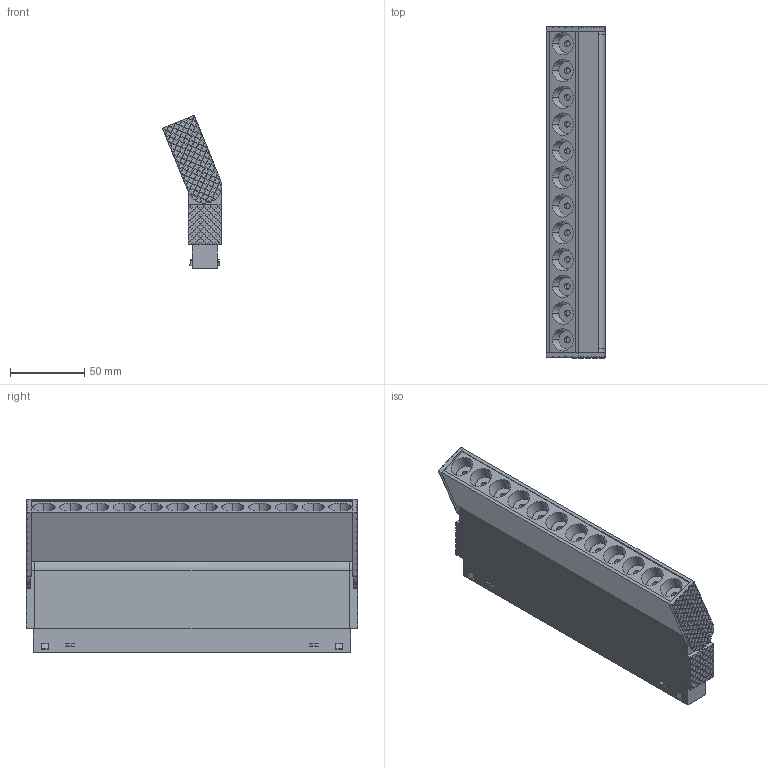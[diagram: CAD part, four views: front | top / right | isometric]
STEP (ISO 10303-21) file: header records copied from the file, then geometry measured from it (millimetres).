
FILE_DESCRIPTION(/* description */ (''),/* implementation_level */ '2;1');
FILE_NAME(/* name */ 'KLDE32~1',/* time_stamp */ '2026-07-04T10:24:00+08:00',/* author */ (''),/* organization */ (''),/* preprocessor_version */ 'ST-DEVELOPER v16.5',/* originating_system */ '',/* authorisation */ '');
FILE_SCHEMA (('CONFIG_CONTROL_DESIGN'));
Length unit declared in the file: millimetre
Products named in the file (1): Document
Bounding box: 39.66 x 223 x 102.87 mm (x, y, z)
Volume: 450867.7 mm3; surface area: 99679.9 mm2
Topology: 23 solids, 23 shells, 2118 faces, 5268 edges, 3504 vertices
Faces by surface type: plane 2009, cylinder 85, bspline 24
Entity records: 54692 total; most frequent: CARTESIAN_POINT 16962, ORIENTED_EDGE 10536, EDGE_CURVE 5268, B_SPLINE_CURVE_WITH_KNOTS 5034, VERTEX_POINT 3504, EDGE_LOOP 2426, ADVANCED_FACE 2118, FACE_OUTER_BOUND 2118
